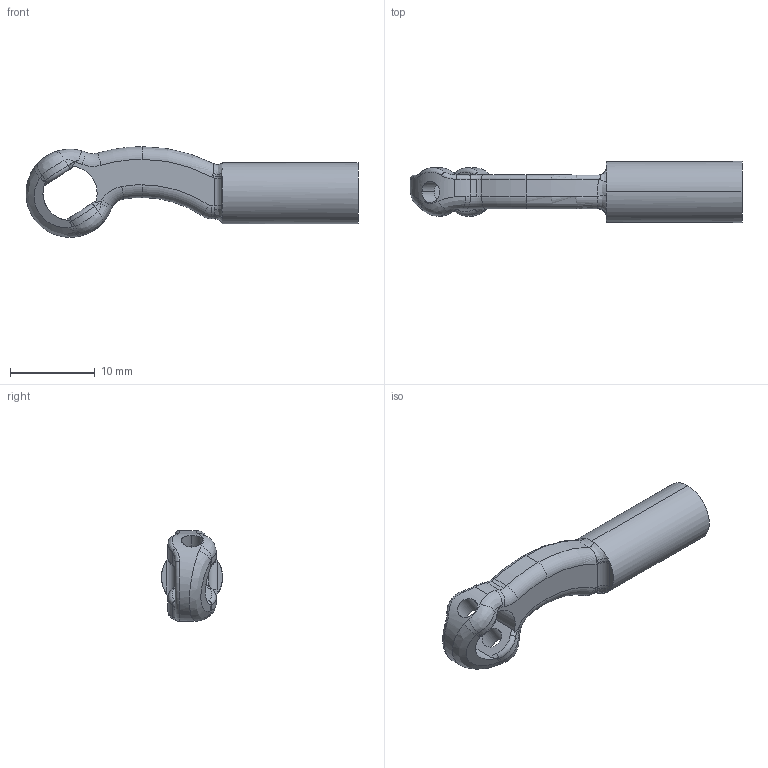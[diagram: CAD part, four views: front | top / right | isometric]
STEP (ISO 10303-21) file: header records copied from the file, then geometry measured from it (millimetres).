
FILE_DESCRIPTION (( 'STEP AP214' ), '1' );
FILE_NAME ('Òÿãà 25 Ï.STEP', '2019-03-21T14:18:16', ( '' ), ( '' ), 'SwSTEP 2.0', 'SolidWorks 2018', '' );
FILE_SCHEMA (( 'AUTOMOTIVE_DESIGN' ));
Length unit declared in the file: millimetre
Products named in the file (1): ﾒ聰 25 ﾏ
Bounding box: 39.2 x 7.21 x 10.7 mm (x, y, z)
Volume: 1118.3 mm3; surface area: 1095.1 mm2
Topology: 1 solids, 1 shells, 108 faces, 270 edges, 163 vertices
Faces by surface type: cylinder 37, torus 31, bspline 27, plane 11, cone 2
Entity records: 4045 total; most frequent: CARTESIAN_POINT 1570, ORIENTED_EDGE 540, DIRECTION 507, EDGE_CURVE 270, AXIS2_PLACEMENT_3D 231, VERTEX_POINT 163, CIRCLE 149, EDGE_LOOP 113
